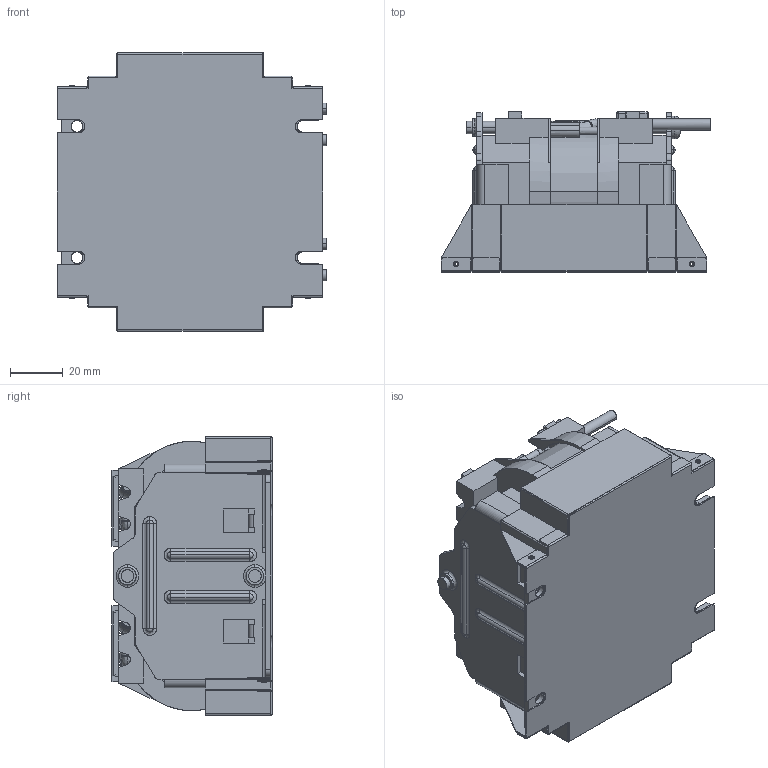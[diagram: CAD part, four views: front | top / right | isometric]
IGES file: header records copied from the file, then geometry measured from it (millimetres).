
Start section: SolidWorks IGES file using analytic representation for surfaces
Global section: file name: \\10.106.230.1\r&d file\05_COMP\02_Mechanical\10_Others\PV_RT 81\3D ONLINE\M\3KW_S_ACL\SF12218B-SM00DS20R(M-3KW_ACL-S).IGS; native system: SolidWorks 2009; preprocessor: SolidWorks 2009; author: test; date: 120523.182857; units: millimetre
Bounding box: 102.5 x 60.9 x 106 mm (x, y, z)
Surface area: 142424.4 mm2 (no closed solid volume)
Topology: 0 solids, 0 shells, 1161 faces, 12523 edges, 12500 vertices
Faces by surface type: bspline 765, revolution 396
